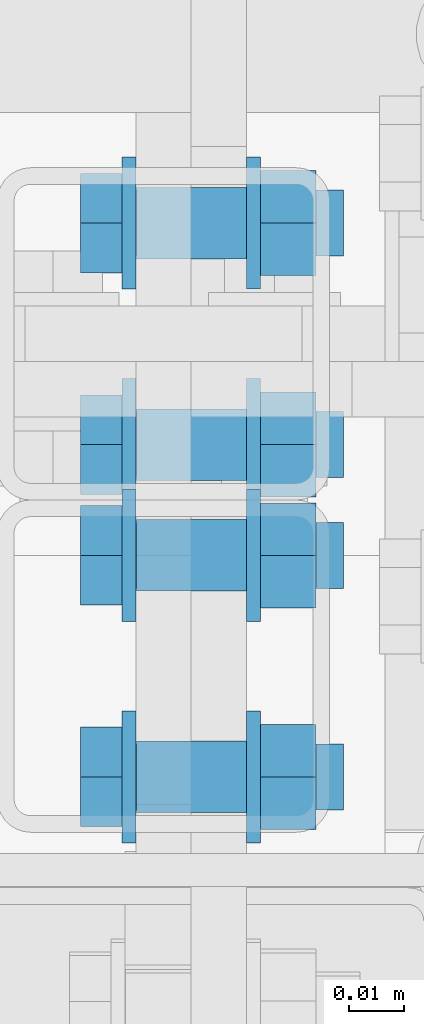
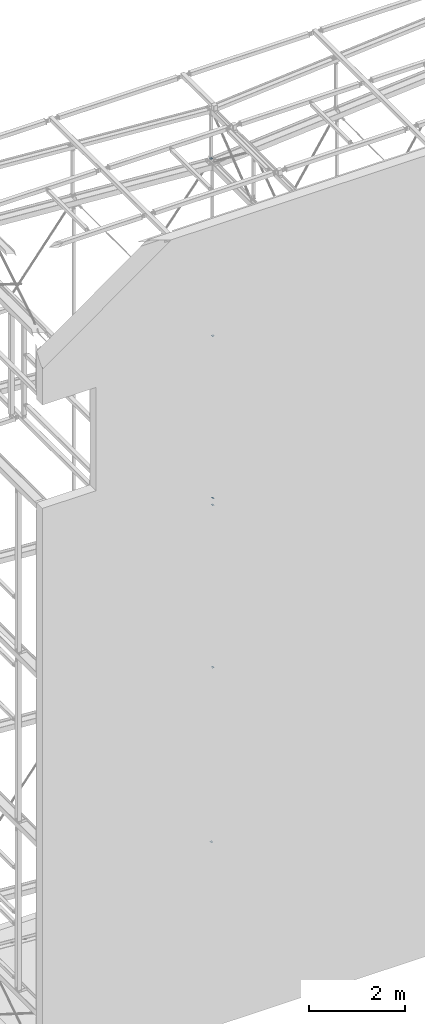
# One storey, part 246 of 271: 6 mechanical fasteners, 4 elements without a shape of their own.
"""IFC2X3 building model written with IfcOpenShell, lengths in millimetres."""

from ifc_helpers import new_model, si_unit, frame, origin_with_axes, origin_2d_with_axis, place, context, subcontext, project, spatial, polyline, circle, outline, extrude, source, transform, mapped, material, type_object, element, aggregate, save


model = new_model("IFC2X3")

# Units and contexts
model_context = context("Model", 3, precision=1e-05, world=origin_with_axes())
body_context = subcontext(model_context, "Body", "Model", "MODEL_VIEW")
ifc_project = project(units=[si_unit("LENGTHUNIT", "METRE", prefix="MILLI"), si_unit("AREAUNIT", "SQUARE_METRE"), si_unit("VOLUMEUNIT", "CUBIC_METRE"), si_unit("MASSUNIT", "GRAM", prefix="KILO"), si_unit("TIMEUNIT", "SECOND"), si_unit("PLANEANGLEUNIT", "RADIAN"), si_unit("SOLIDANGLEUNIT", "STERADIAN"), si_unit("THERMODYNAMICTEMPERATUREUNIT", "DEGREE_CELSIUS"), si_unit("LUMINOUSINTENSITYUNIT", "LUMEN")], contexts=[model_context])

# Site, building, storey
site_placement = place(None, origin_with_axes())
site = spatial("IfcSite", under=ifc_project, at=site_placement, Name="Undefined", CompositionType="ELEMENT")
building_placement = place(site_placement, origin_with_axes())
building = spatial("IfcBuilding", under=site, at=building_placement, Name="Undefined", CompositionType="ELEMENT")
storey_placement = place(building_placement, origin_with_axes())
storey = spatial("IfcBuildingStorey", under=building, at=storey_placement, Name="Undefined", CompositionType="ELEMENT", Elevation=0.0)

# Assembly, mechanical fastener
assembly_1_placement = place(storey_placement, origin_with_axes())
assembly_1 = element("IfcElementAssembly", 1, at=assembly_1_placement, inside=storey, AssemblyPlace="NOTDEFINED", PredefinedType="RIGID_FRAME")
ifc_material = material(Name="Undefined")
mechanical_fastener_type = type_object("IfcMechanicalFastenerType", Name="Bolt assembly")
shared_shape = source(origin_with_axes(), body_context, "Body", "SweptSolid", [
    extrude(circle(Radius=6.5, at=origin_2d_with_axis()), frame((0.0, -5.1, 0.0), z_axis=(0.0, 1.0, 0.0), x_axis=(1.0, 0.0, 0.0)), (0.0, 0.0, 1.0), 10.1),
    extrude(circle(Radius=6.5, at=origin_2d_with_axis()), frame((0.0, -14.9000000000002, 0.0), z_axis=(0.0, 1.0, 0.0), x_axis=(1.0, 0.0, 0.0)), (0.0, 0.0, 1.0), 10.0),
    extrude(outline(polyline([(10.39230484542, 0.0), (5.19615242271, 9.00000000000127), (-5.19615242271, 9.00000000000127), (-10.39230484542, 0.0), (-5.19615242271, -9.00000000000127), (5.19615242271, -9.00000000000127), (10.39230484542, 0.0)])), frame((0.0, -25.0000000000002, 0.0), z_axis=(0.0, 1.0, 0.0), x_axis=(1.0, 0.0, 0.0)), (0.0, 0.0, 1.0), 7.5),
    extrude(circle(Radius=6.0, at=origin_2d_with_axis()), frame((0.0, -17.5000000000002, 0.0), z_axis=(0.0, 1.0, 0.0), x_axis=(1.0, 0.0, 0.0)), (0.0, 0.0, 1.0), 40.0),
    extrude(circle(Radius=12.0, at=origin_2d_with_axis()), frame((0.0, -17.5000000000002, 0.0), z_axis=(0.0, 1.0, 0.0), x_axis=(1.0, 0.0, 0.0)), (0.0, 0.0, 1.0), 2.5),
    extrude(circle(Radius=12.0, at=origin_2d_with_axis()), frame((0.0, 5.00000000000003, 0.0), z_axis=(0.0, 1.0, 0.0), x_axis=(1.0, 0.0, 0.0)), (0.0, 0.0, 1.0), 2.5),
    extrude(outline(polyline([(10.96965511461, 0.0), (5.484827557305, 9.50000000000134), (-5.484827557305, 9.50000000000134), (-10.96965511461, 0.0), (-5.484827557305, -9.50000000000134), (5.484827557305, -9.50000000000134), (10.96965511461, 0.0)])), frame((0.0, 7.50000000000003, 0.0), z_axis=(0.0, 1.0, 0.0), x_axis=(1.0, 0.0, 0.0)), (0.0, 0.0, 1.0), 10.0),
])
mechanical_fastener_1_placement = place(assembly_1_placement, frame((6358.37568736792, 3764.92439872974, 18732.0999999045), z_axis=(0.0, 1.0, 0.0), x_axis=(0.0, 0.0, 1.0)))
mechanical_fastener_1 = element("IfcMechanicalFastener", 2, at=mechanical_fastener_1_placement, type_object=mechanical_fastener_type, material=ifc_material, Name="Bolt assembly", NominalDiameter=12.0, NominalLength=40.0, context=body_context, shape_type="MappedRepresentation", body=[
    mapped(shared_shape, transform((0.0, 0.0, -20.0))),
    mapped(shared_shape, transform((0.0, 0.0, 20.0))),
])
aggregate(assembly_1, [mechanical_fastener_1])

assembly_2_placement = place(storey_placement, origin_with_axes())
assembly_2 = element("IfcElementAssembly", 3, at=assembly_2_placement, inside=storey, AssemblyPlace="NOTDEFINED", PredefinedType="RIGID_FRAME")
mechanical_fastener_2_placement = place(assembly_2_placement, frame((6358.37568736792, 3764.92439872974, 1276.59999990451), z_axis=(0.0, -1.0, 0.0), x_axis=(0.0, 0.0, -1.0)))
mechanical_fastener_2 = element("IfcMechanicalFastener", 4, at=mechanical_fastener_2_placement, type_object=mechanical_fastener_type, material=ifc_material, Name="Bolt assembly", NominalDiameter=12.0, NominalLength=40.0, context=body_context, shape_type="MappedRepresentation", body=[
    mapped(shared_shape, transform((0.0, 0.0, -20.0))),
    mapped(shared_shape, transform((0.0, 0.0, 20.0))),
])
aggregate(assembly_2, [mechanical_fastener_2])

assembly_3_placement = place(storey_placement, origin_with_axes())
assembly_3 = element("IfcElementAssembly", 5, at=assembly_3_placement, inside=storey, AssemblyPlace="NOTDEFINED", PredefinedType="RIGID_FRAME")
mechanical_fastener_3_placement = place(assembly_3_placement, frame((6358.37568736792, 3704.92439872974, 5772.09999990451), z_axis=(0.0, 1.0, 0.0), x_axis=(0.0, 0.0, 1.0)))
mechanical_fastener_3 = element("IfcMechanicalFastener", 6, at=mechanical_fastener_3_placement, type_object=mechanical_fastener_type, material=ifc_material, Name="Bolt assembly", NominalDiameter=12.0, NominalLength=40.0, context=body_context, shape_type="MappedRepresentation", body=[
    mapped(shared_shape, transform((0.0, 0.0, -20.0))),
    mapped(shared_shape, transform((0.0, 0.0, 20.0))),
])

# Assembly, mechanical fasteners
assembly_4_placement = place(storey_placement, origin_with_axes())
assembly_4 = element("IfcElementAssembly", 7, at=assembly_4_placement, inside=storey, AssemblyPlace="NOTDEFINED", PredefinedType="RIGID_FRAME")
mechanical_fastener_4_placement = place(assembly_4_placement, frame((6358.37568736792, 3704.92439872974, 14236.5999999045), z_axis=(0.0, -1.0, 0.0), x_axis=(0.0, 0.0, -1.0)))
mechanical_fastener_4 = element("IfcMechanicalFastener", 8, at=mechanical_fastener_4_placement, type_object=mechanical_fastener_type, material=ifc_material, Name="Bolt assembly", NominalDiameter=12.0, NominalLength=40.0, context=body_context, shape_type="MappedRepresentation", body=[
    mapped(shared_shape, transform((0.0, 0.0, -20.0))),
    mapped(shared_shape, transform((0.0, 0.0, 20.0))),
])
mechanical_fastener_5_placement = place(assembly_4_placement, frame((6358.37568736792, 3704.92439872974, 10092.0999999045), z_axis=(0.0, 1.0, 0.0), x_axis=(0.0, 0.0, 1.0)))
mechanical_fastener_5 = element("IfcMechanicalFastener", 9, at=mechanical_fastener_5_placement, type_object=mechanical_fastener_type, material=ifc_material, Name="Bolt assembly", NominalDiameter=12.0, NominalLength=40.0, context=body_context, shape_type="MappedRepresentation", body=[
    mapped(shared_shape, transform((0.0, 0.0, -20.0))),
    mapped(shared_shape, transform((0.0, 0.0, 20.0))),
])
aggregate(assembly_4, [mechanical_fastener_4, mechanical_fastener_5])

# Mechanical fastener
mechanical_fastener_6_placement = place(assembly_3_placement, frame((6358.37568736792, 3704.92439872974, 9916.59999990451), z_axis=(0.0, -1.0, 0.0), x_axis=(0.0, 0.0, -1.0)))
mechanical_fastener_6 = element("IfcMechanicalFastener", 10, at=mechanical_fastener_6_placement, type_object=mechanical_fastener_type, material=ifc_material, Name="Bolt assembly", NominalDiameter=12.0, NominalLength=40.0, context=body_context, shape_type="MappedRepresentation", body=[
    mapped(shared_shape, transform((0.0, 0.0, -20.0))),
    mapped(shared_shape, transform((0.0, 0.0, 20.0))),
])

aggregate(assembly_3, [mechanical_fastener_3, mechanical_fastener_6])

save(model, "model.ifc")
